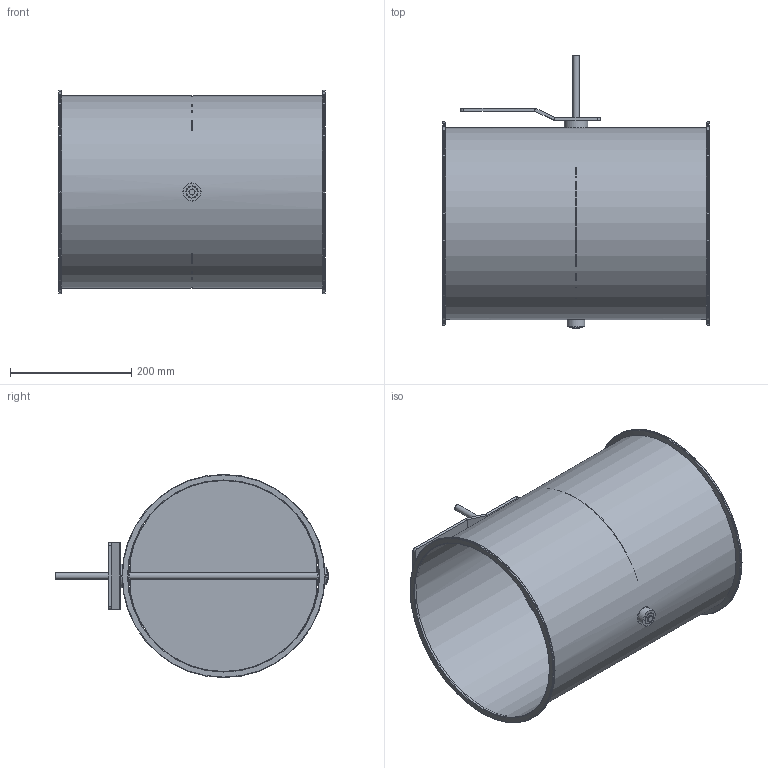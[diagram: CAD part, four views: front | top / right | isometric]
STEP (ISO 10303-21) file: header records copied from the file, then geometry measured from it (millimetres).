
FILE_DESCRIPTION(/* description */ (''),/* implementation_level */ '2;1');
FILE_NAME(/* name */ 'EA106-80B__315_L440_Belimo_Typen_NF_SF.stp',/* time_stamp */ '2017-12-06T15:17:08+01:00',/* author */ (''),/* organization */ (''),/* preprocessor_version */ 'ST-DEVELOPER v11',/* originating_system */ 'SIEMENS UGS NX 6.0',/* authorisation */ '');
FILE_SCHEMA (('CONFIG_CONTROL_DESIGN'));
Length unit declared in the file: millimetre
Products named in the file (1): gars18E2j2dh
Bounding box: 440 x 451 x 335 mm (x, y, z)
Volume: 700104.1 mm3; surface area: 1144020 mm2
Topology: 8 solids, 8 shells, 76 faces, 158 edges, 100 vertices
Faces by surface type: plane 36, cylinder 32, torus 6, cone 2
Full cylindrical faces by diameter (mm): 4.1 x4, 10 x3, 19 x3, 19.85 x2, 20 x2, 29 x1, 30 x2, 39 x1, 315 x1, 316.6 x1, 335 x2
Entity records: 1960 total; most frequent: CARTESIAN_POINT 353, DIRECTION 334, ORIENTED_EDGE 236, AXIS2_PLACEMENT_3D 143, EDGE_LOOP 132, EDGE_CURVE 118, FACE_BOUND 102, VERTEX_POINT 90
